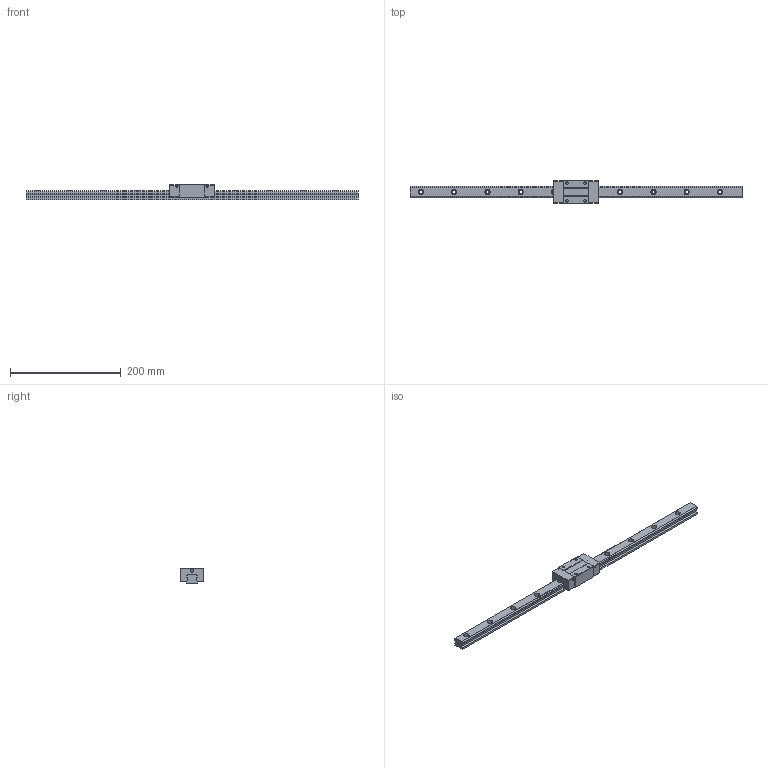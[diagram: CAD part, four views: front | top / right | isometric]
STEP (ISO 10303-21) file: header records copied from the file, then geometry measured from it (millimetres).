
FILE_DESCRIPTION (( 'STEP AP203' ), '1' );
FILE_NAME ('TRS20VN-WW.STEP', '2024-05-24T01:28:03', ( '' ), ( '' ), 'SwSTEP 2.0', 'SolidWorks 2022', '' );
FILE_SCHEMA (( 'CONFIG_CONTROL_DESIGN' ));
Length unit declared in the file: millimetre
Products named in the file (1): TRS20VN-WW
Bounding box: 600 x 42 x 28 mm (x, y, z)
Volume: 227655.6 mm3; surface area: 63982.3 mm2
Topology: 2 solids, 2 shells, 192 faces, 496 edges, 328 vertices
Faces by surface type: cylinder 96, plane 96
Entity records: 6023 total; most frequent: DIRECTION 1074, CARTESIAN_POINT 1017, ORIENTED_EDGE 992, EDGE_CURVE 496, AXIS2_PLACEMENT_3D 385, VERTEX_POINT 328, VECTOR 304, LINE 304
